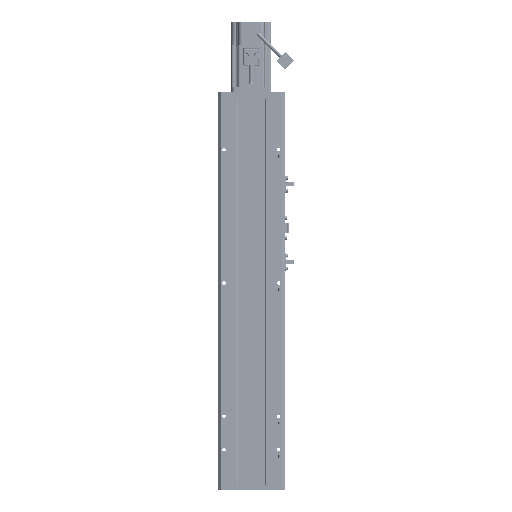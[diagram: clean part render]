
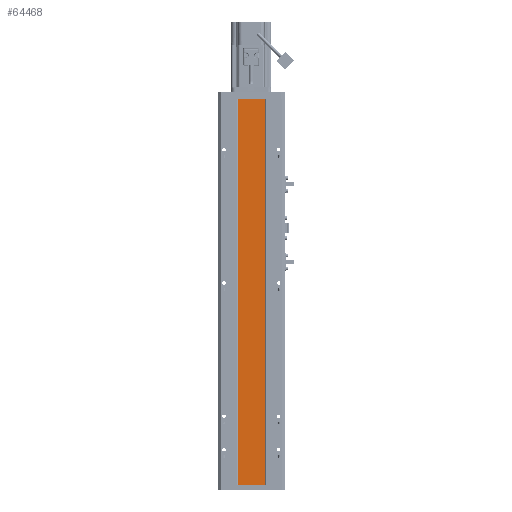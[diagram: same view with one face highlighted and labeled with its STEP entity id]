
A CAD part, front view. The second image highlights one B-rep face of the part: STEP entity #64468.
In plain terms, the highlighted planar face has unit normal (0, -1, 0).
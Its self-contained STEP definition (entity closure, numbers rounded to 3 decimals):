
#5187 = CARTESIAN_POINT ( 'NONE',  ( -20., 0., -578.5 ) ) ;
#6405 = CARTESIAN_POINT ( 'NONE',  ( -20., 0., 0. ) ) ;
#7467 = DIRECTION ( 'NONE',  ( 0., 1., 0. ) ) ;
#10246 = VERTEX_POINT ( 'NONE', #5187 ) ;
#18213 = VECTOR ( 'NONE', #75202, 1000. ) ;
#18301 = LINE ( 'NONE', #25644, #18213 ) ;
#20099 = VECTOR ( 'NONE', #91132, 1000. ) ;
#20350 = LINE ( 'NONE', #20986, #20099 ) ;
#20986 = CARTESIAN_POINT ( 'NONE',  ( -20., 0., -578.5 ) ) ;
#21311 = VERTEX_POINT ( 'NONE', #54667 ) ;
#22746 = EDGE_CURVE ( 'NONE', #78438, #21311, #25808, .T. ) ;
#22865 = EDGE_CURVE ( 'NONE', #21311, #88114, #24577, .T. ) ;
#23141 = EDGE_CURVE ( 'NONE', #10246, #88114, #20350, .T. ) ;
#23379 = EDGE_CURVE ( 'NONE', #78438, #10246, #18301, .T. ) ;
#24378 = DIRECTION ( 'NONE',  ( -1., 0., 0. ) ) ;
#24577 = LINE ( 'NONE', #38598, #24838 ) ;
#24838 = VECTOR ( 'NONE', #24378, 1000. ) ;
#25644 = CARTESIAN_POINT ( 'NONE',  ( 20., 0., -578.5 ) ) ;
#25808 = LINE ( 'NONE', #36758, #25986 ) ;
#25986 = VECTOR ( 'NONE', #29038, 1000. ) ;
#27297 = CARTESIAN_POINT ( 'NONE',  ( 20., 0., -578.5 ) ) ;
#29038 = DIRECTION ( 'NONE',  ( 0., 0., 1. ) ) ;
#36758 = CARTESIAN_POINT ( 'NONE',  ( 20., 0., -578.5 ) ) ;
#38598 = CARTESIAN_POINT ( 'NONE',  ( 20., 0., 0. ) ) ;
#40431 = EDGE_LOOP ( 'NONE', ( #73506, #73745, #75962, #79271 ) ) ;
#54667 = CARTESIAN_POINT ( 'NONE',  ( 20., 0., 0. ) ) ;
#56926 = DIRECTION ( 'NONE',  ( -1., 0., 0. ) ) ;
#59472 = AXIS2_PLACEMENT_3D ( 'NONE', #85160, #7467, #56926 ) ;
#64468 = ADVANCED_FACE ( 'NONE', ( #91213 ), #70900, .F. ) ;
#70900 = PLANE ( 'NONE',  #59472 ) ;
#73506 = ORIENTED_EDGE ( 'NONE', *, *, #22865, .T. ) ;
#73745 = ORIENTED_EDGE ( 'NONE', *, *, #23141, .F. ) ;
#75202 = DIRECTION ( 'NONE',  ( -1., 0., 0. ) ) ;
#75962 = ORIENTED_EDGE ( 'NONE', *, *, #23379, .F. ) ;
#78438 = VERTEX_POINT ( 'NONE', #27297 ) ;
#79271 = ORIENTED_EDGE ( 'NONE', *, *, #22746, .T. ) ;
#85160 = CARTESIAN_POINT ( 'NONE',  ( 20., 0., -578.5 ) ) ;
#88114 = VERTEX_POINT ( 'NONE', #6405 ) ;
#91132 = DIRECTION ( 'NONE',  ( 0., 0., 1. ) ) ;
#91213 = FACE_OUTER_BOUND ( 'NONE', #40431, .T. ) ;
